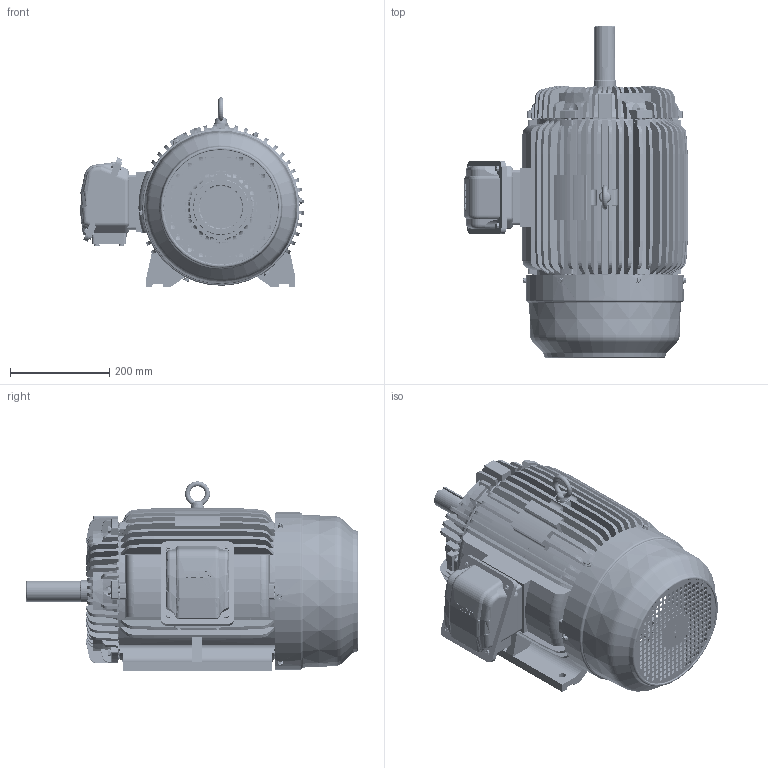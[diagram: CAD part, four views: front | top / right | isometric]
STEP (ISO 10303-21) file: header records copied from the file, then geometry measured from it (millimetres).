
FILE_DESCRIPTION(/* description */ (''),/* implementation_level */ '2;1');
FILE_NAME(/* name */ 'C:/Users/Luigi_Zhang/Desktop/160L-H_AllCATPart_ no cone.step',/* time_stamp */ '2019-11-27T08:54:04+11:00',/* author */ (''),/* organization */ (''),/* preprocessor_version */ 'ST-DEVELOPER v18',/* originating_system */ 'Autodesk Translation Framework v8.9.1.1155',/* authorisation */ '');
FILE_SCHEMA (('AUTOMOTIVE_DESIGN { 1 0 10303 214 3 1 1 }'));
Length unit declared in the file: millimetre
Products named in the file (1): (Unsaved)
Bounding box: 449.94 x 668 x 380.99 mm (x, y, z)
Volume: 8681666.9 mm3; surface area: 2365440.6 mm2
Topology: 39 solids, 39 shells, 5705 faces, 16496 edges, 10978 vertices
Faces by surface type: plane 2961, cylinder 1521, torus 594, cone 478, bspline 124, sphere 27
Full cylindrical faces by diameter (mm): 0.01 x1, 4.917 x10, 5 x1, 5.854 x4, 6 x10, 6.5 x4, 6.647 x18, 7 x8, 7.805 x16, 7.9 x1, 8.88 x4, 9.8 x1, 10 x14, 10.106 x1, 10.25 x1, 11.63 x16, 12 x1, 14 x6, 14.5 x4, 28 x2, 35 x1, 38.5 x1, 39 x1, 42 x1, 45 x1, 45.5 x1, 49.4 x1, 50 x1, 53 x1, 54 x1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
Entity records: 206192 total; most frequent: CARTESIAN_POINT 55076, ORIENTED_EDGE 32926, DIRECTION 30735, EDGE_CURVE 16463, AXIS2_PLACEMENT_3D 11371, VERTEX_POINT 10978, LINE 7993, VECTOR 7993
